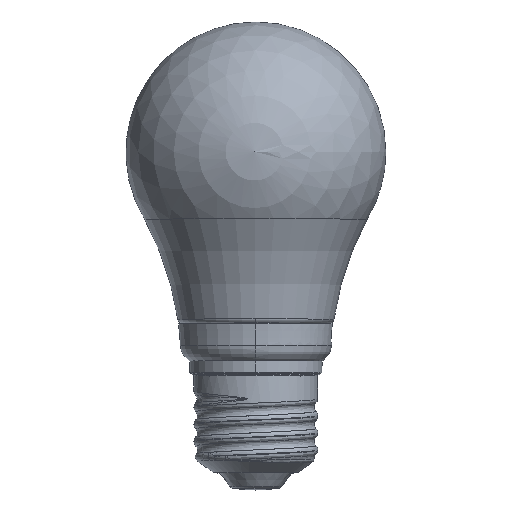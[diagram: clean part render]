
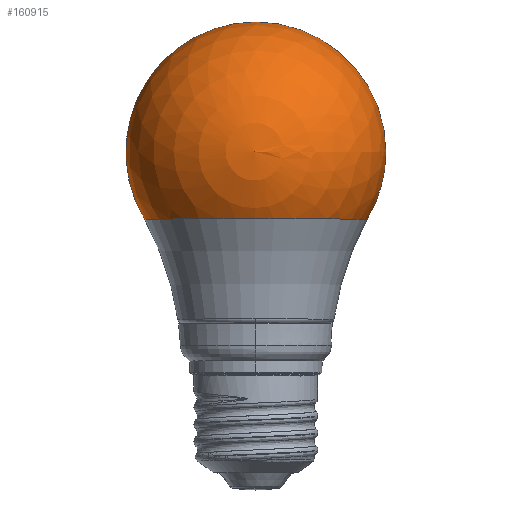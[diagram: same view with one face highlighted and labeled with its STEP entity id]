
A CAD part, top view. The second image highlights one B-rep face of the part: STEP entity #160915.
In plain terms, the highlighted spherical face has radius 27.5 mm.
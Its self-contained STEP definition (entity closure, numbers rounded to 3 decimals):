
#160877 = VERTEX_POINT('',#160878);
#160878 = CARTESIAN_POINT('',(23.55,-14.2,0.));
#160886 = VERTEX_POINT('',#160887);
#160887 = CARTESIAN_POINT('',(-23.55,-14.2,
    0.));
#160915 = ADVANCED_FACE('',(#160916),#160964,.T.);
#160916 = FACE_BOUND('',#160917,.T.);
#160917 = EDGE_LOOP('',(#160918,#160927,#160940,#160941,#160950,#160957)
  );
#160918 = ORIENTED_EDGE('',*,*,#160919,.F.);
#160919 = EDGE_CURVE('',#160920,#160877,#160922,.T.);
#160920 = VERTEX_POINT('',#160921);
#160921 = CARTESIAN_POINT('',(27.5,0.,0.));
#160922 = CIRCLE('',#160923,27.5);
#160923 = AXIS2_PLACEMENT_3D('',#160924,#160925,#160926);
#160924 = CARTESIAN_POINT('',(0.,0.,0.));
#160925 = DIRECTION('',(0.,0.,-1.));
#160926 = DIRECTION('',(-1.,0.,0.));
#160927 = ORIENTED_EDGE('',*,*,#160928,.T.);
#160928 = EDGE_CURVE('',#160920,#160929,#160931,.T.);
#160929 = VERTEX_POINT('',#160930);
#160930 = CARTESIAN_POINT('',(0.,0.,27.5
    ));
#160931 = B_SPLINE_CURVE_WITH_KNOTS('',7,(#160932,#160933,#160934,
    #160935,#160936,#160937,#160938,#160939),.UNSPECIFIED.,.F.,.F.,(8,8)
  ,(0.,1.571),.PIECEWISE_BEZIER_KNOTS.);
#160932 = CARTESIAN_POINT('',(27.5,0.,
    0.));
#160933 = CARTESIAN_POINT('',(27.5,0.,6.171));
#160934 = CARTESIAN_POINT('',(25.884,0.,
    12.342));
#160935 = CARTESIAN_POINT('',(22.653,0.,
    18.006));
#160936 = CARTESIAN_POINT('',(18.006,0.,
    22.653));
#160937 = CARTESIAN_POINT('',(12.342,0.,
    25.884));
#160938 = CARTESIAN_POINT('',(6.171,0.,27.5));
#160939 = CARTESIAN_POINT('',(0.,0.,27.5
    ));
#160940 = ORIENTED_EDGE('',*,*,#160928,.F.);
#160941 = ORIENTED_EDGE('',*,*,#160942,.F.);
#160942 = EDGE_CURVE('',#160943,#160920,#160945,.T.);
#160943 = VERTEX_POINT('',#160944);
#160944 = CARTESIAN_POINT('',(0.,27.5,0.));
#160945 = CIRCLE('',#160946,27.5);
#160946 = AXIS2_PLACEMENT_3D('',#160947,#160948,#160949);
#160947 = CARTESIAN_POINT('',(0.,0.,0.));
#160948 = DIRECTION('',(0.,0.,-1.));
#160949 = DIRECTION('',(-1.,0.,0.));
#160950 = ORIENTED_EDGE('',*,*,#160951,.T.);
#160951 = EDGE_CURVE('',#160943,#160886,#160952,.T.);
#160952 = CIRCLE('',#160953,27.5);
#160953 = AXIS2_PLACEMENT_3D('',#160954,#160955,#160956);
#160954 = CARTESIAN_POINT('',(0.,0.,0.));
#160955 = DIRECTION('',(0.,0.,1.));
#160956 = DIRECTION('',(1.,0.,0.));
#160957 = ORIENTED_EDGE('',*,*,#160958,.F.);
#160958 = EDGE_CURVE('',#160877,#160886,#160959,.T.);
#160959 = CIRCLE('',#160960,23.55);
#160960 = AXIS2_PLACEMENT_3D('',#160961,#160962,#160963);
#160961 = CARTESIAN_POINT('',(0.,-14.2,0.));
#160962 = DIRECTION('',(0.,-1.,-0.));
#160963 = DIRECTION('',(1.,0.,0.));
#160964 = SPHERICAL_SURFACE('',#160965,27.5);
#160965 = AXIS2_PLACEMENT_3D('',#160966,#160967,#160968);
#160966 = CARTESIAN_POINT('',(0.,0.,0.));
#160967 = DIRECTION('',(0.,-0.,1.));
#160968 = DIRECTION('',(1.,0.,0.));
